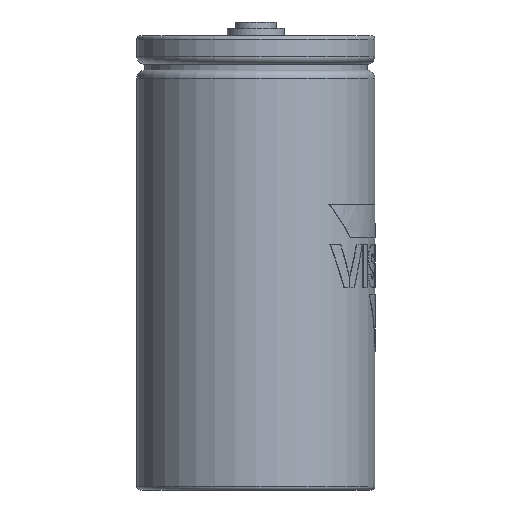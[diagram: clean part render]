
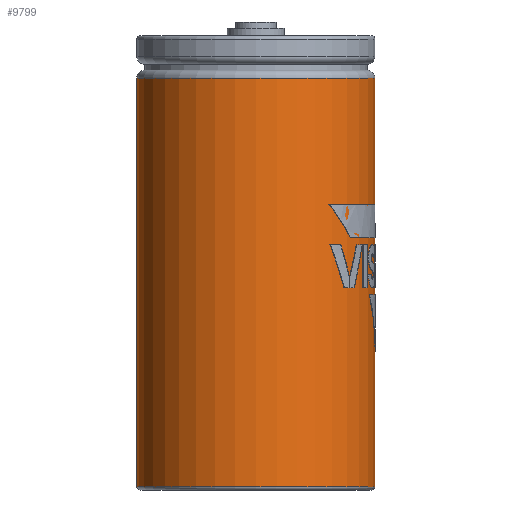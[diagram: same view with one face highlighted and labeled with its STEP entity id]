
A CAD part, left-side view. The second image highlights one B-rep face of the part: STEP entity #9799.
In plain terms, the highlighted cylindrical face has radius 38.2 mm (diameter 76.4 mm), a full revolution.
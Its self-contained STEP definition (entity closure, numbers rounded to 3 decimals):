
#9732 = TOROIDAL_SURFACE('',#9733,37.1,1.1);
#9733 = AXIS2_PLACEMENT_3D('',#9734,#9735,#9736);
#9734 = CARTESIAN_POINT('',(0.,0.,-143.6));
#9735 = DIRECTION('',(0.,0.,1.));
#9736 = DIRECTION('',(1.,0.,0.));
#9749 = VERTEX_POINT('',#9750);
#9750 = CARTESIAN_POINT('',(38.2,0.,-143.6));
#9772 = EDGE_CURVE('',#9749,#9749,#9773,.T.);
#9773 = SURFACE_CURVE('',#9774,(#9779,#9786),.PCURVE_S1.);
#9774 = CIRCLE('',#9775,38.2);
#9775 = AXIS2_PLACEMENT_3D('',#9776,#9777,#9778);
#9776 = CARTESIAN_POINT('',(0.,0.,-143.6));
#9777 = DIRECTION('',(0.,-0.,1.));
#9778 = DIRECTION('',(1.,0.,0.));
#9779 = PCURVE('',#9732,#9780);
#9780 = DEFINITIONAL_REPRESENTATION('',(#9781),#9785);
#9781 = LINE('',#9782,#9783);
#9782 = CARTESIAN_POINT('',(0.,6.283));
#9783 = VECTOR('',#9784,1.);
#9784 = DIRECTION('',(1.,0.));
#9785 = ( GEOMETRIC_REPRESENTATION_CONTEXT(2) 
PARAMETRIC_REPRESENTATION_CONTEXT() REPRESENTATION_CONTEXT('2D SPACE',''
  ) );
#9786 = PCURVE('',#9787,#9792);
#9787 = CYLINDRICAL_SURFACE('',#9788,38.2);
#9788 = AXIS2_PLACEMENT_3D('',#9789,#9790,#9791);
#9789 = CARTESIAN_POINT('',(0.,0.,-143.6));
#9790 = DIRECTION('',(0.,0.,1.));
#9791 = DIRECTION('',(1.,0.,0.));
#9792 = DEFINITIONAL_REPRESENTATION('',(#9793),#9797);
#9793 = LINE('',#9794,#9795);
#9794 = CARTESIAN_POINT('',(0.,0.));
#9795 = VECTOR('',#9796,1.);
#9796 = DIRECTION('',(1.,0.));
#9797 = ( GEOMETRIC_REPRESENTATION_CONTEXT(2) 
PARAMETRIC_REPRESENTATION_CONTEXT() REPRESENTATION_CONTEXT('2D SPACE',''
  ) );
#9799 = ADVANCED_FACE('',(#9800),#9787,.T.);
#9800 = FACE_BOUND('',#9801,.T.);
#9801 = EDGE_LOOP('',(#9802,#9803,#9826,#9853));
#9802 = ORIENTED_EDGE('',*,*,#9772,.T.);
#9803 = ORIENTED_EDGE('',*,*,#9804,.T.);
#9804 = EDGE_CURVE('',#9749,#9805,#9807,.T.);
#9805 = VERTEX_POINT('',#9806);
#9806 = CARTESIAN_POINT('',(38.2,0.,-12.5));
#9807 = SEAM_CURVE('',#9808,(#9812,#9819),.PCURVE_S1.);
#9808 = LINE('',#9809,#9810);
#9809 = CARTESIAN_POINT('',(38.2,0.,-143.6));
#9810 = VECTOR('',#9811,1.);
#9811 = DIRECTION('',(0.,0.,1.));
#9812 = PCURVE('',#9787,#9813);
#9813 = DEFINITIONAL_REPRESENTATION('',(#9814),#9818);
#9814 = LINE('',#9815,#9816);
#9815 = CARTESIAN_POINT('',(0.,0.));
#9816 = VECTOR('',#9817,1.);
#9817 = DIRECTION('',(0.,1.));
#9818 = ( GEOMETRIC_REPRESENTATION_CONTEXT(2) 
PARAMETRIC_REPRESENTATION_CONTEXT() REPRESENTATION_CONTEXT('2D SPACE',''
  ) );
#9819 = PCURVE('',#9787,#9820);
#9820 = DEFINITIONAL_REPRESENTATION('',(#9821),#9825);
#9821 = LINE('',#9822,#9823);
#9822 = CARTESIAN_POINT('',(6.283,0.));
#9823 = VECTOR('',#9824,1.);
#9824 = DIRECTION('',(0.,1.));
#9825 = ( GEOMETRIC_REPRESENTATION_CONTEXT(2) 
PARAMETRIC_REPRESENTATION_CONTEXT() REPRESENTATION_CONTEXT('2D SPACE',''
  ) );
#9826 = ORIENTED_EDGE('',*,*,#9827,.F.);
#9827 = EDGE_CURVE('',#9805,#9805,#9828,.T.);
#9828 = SURFACE_CURVE('',#9829,(#9834,#9841),.PCURVE_S1.);
#9829 = CIRCLE('',#9830,38.2);
#9830 = AXIS2_PLACEMENT_3D('',#9831,#9832,#9833);
#9831 = CARTESIAN_POINT('',(0.,0.,-12.5));
#9832 = DIRECTION('',(0.,-0.,1.));
#9833 = DIRECTION('',(1.,0.,0.));
#9834 = PCURVE('',#9787,#9835);
#9835 = DEFINITIONAL_REPRESENTATION('',(#9836),#9840);
#9836 = LINE('',#9837,#9838);
#9837 = CARTESIAN_POINT('',(0.,131.1));
#9838 = VECTOR('',#9839,1.);
#9839 = DIRECTION('',(1.,0.));
#9840 = ( GEOMETRIC_REPRESENTATION_CONTEXT(2) 
PARAMETRIC_REPRESENTATION_CONTEXT() REPRESENTATION_CONTEXT('2D SPACE',''
  ) );
#9841 = PCURVE('',#9842,#9847);
#9842 = TOROIDAL_SURFACE('',#9843,35.7,2.5);
#9843 = AXIS2_PLACEMENT_3D('',#9844,#9845,#9846);
#9844 = CARTESIAN_POINT('',(0.,0.,-12.5));
#9845 = DIRECTION('',(0.,0.,1.));
#9846 = DIRECTION('',(1.,0.,0.));
#9847 = DEFINITIONAL_REPRESENTATION('',(#9848),#9852);
#9848 = LINE('',#9849,#9850);
#9849 = CARTESIAN_POINT('',(0.,0.));
#9850 = VECTOR('',#9851,1.);
#9851 = DIRECTION('',(1.,0.));
#9852 = ( GEOMETRIC_REPRESENTATION_CONTEXT(2) 
PARAMETRIC_REPRESENTATION_CONTEXT() REPRESENTATION_CONTEXT('2D SPACE',''
  ) );
#9853 = ORIENTED_EDGE('',*,*,#9804,.F.);
